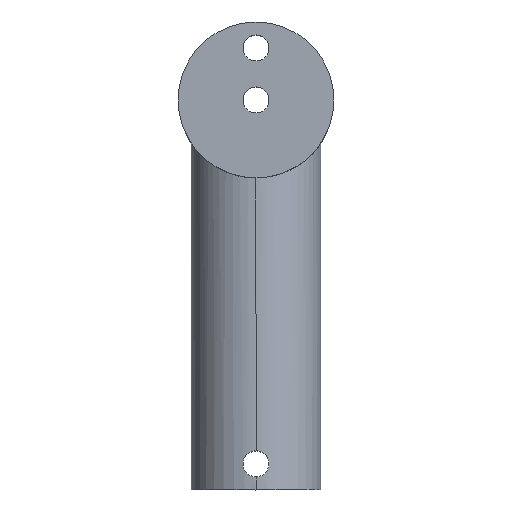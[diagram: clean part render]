
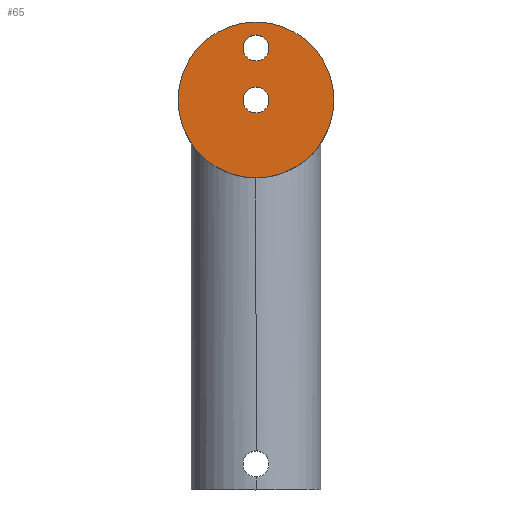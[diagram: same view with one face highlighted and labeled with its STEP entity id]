
A CAD part, top view. The second image highlights one B-rep face of the part: STEP entity #65.
In plain terms, the highlighted planar face has unit normal (0, 0, 1).
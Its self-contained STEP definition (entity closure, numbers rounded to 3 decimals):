
#8 = ORIENTED_EDGE ( 'NONE', *, *, #795, .F. ) ;
#15 = DIRECTION ( 'NONE',  ( 1., 0., 0. ) ) ;
#44 = ORIENTED_EDGE ( 'NONE', *, *, #193, .T. ) ;
#56 = FACE_BOUND ( 'NONE', #442, .T. ) ;
#59 = AXIS2_PLACEMENT_3D ( 'NONE', #305, #373, #117 ) ;
#64 = DIRECTION ( 'NONE',  ( 1., 0., 0. ) ) ;
#65 = ADVANCED_FACE ( 'NONE', ( #56, #395, #737 ), #1068, .T. ) ;
#73 = CARTESIAN_POINT ( 'NONE',  ( 2.5, 0., 27.5 ) ) ;
#113 = CIRCLE ( 'NONE', #59, 2.5 ) ;
#117 = DIRECTION ( 'NONE',  ( 1., 0., 0. ) ) ;
#130 = DIRECTION ( 'NONE',  ( 1., 0., 0. ) ) ;
#190 = VERTEX_POINT ( 'NONE', #372 ) ;
#193 = EDGE_CURVE ( 'NONE', #658, #491, #870, .T. ) ;
#216 = EDGE_CURVE ( 'NONE', #491, #658, #285, .T. ) ;
#224 = DIRECTION ( 'NONE',  ( 1., 0., 0. ) ) ;
#253 = CIRCLE ( 'NONE', #342, 2.5 ) ;
#263 = CARTESIAN_POINT ( 'NONE',  ( 0., 0., 27.5 ) ) ;
#280 = DIRECTION ( 'NONE',  ( 0., 0., 1. ) ) ;
#285 = CIRCLE ( 'NONE', #819, 15. ) ;
#300 = DIRECTION ( 'NONE',  ( 0., 0., 1. ) ) ;
#305 = CARTESIAN_POINT ( 'NONE',  ( 0., 0., 27.5 ) ) ;
#309 = CARTESIAN_POINT ( 'NONE',  ( 0., 0., 27.5 ) ) ;
#338 = CIRCLE ( 'NONE', #736, 2.5 ) ;
#339 = DIRECTION ( 'NONE',  ( 0., 0., 1. ) ) ;
#342 = AXIS2_PLACEMENT_3D ( 'NONE', #474, #300, #64 ) ;
#372 = CARTESIAN_POINT ( 'NONE',  ( 2.5, 10., 27.5 ) ) ;
#373 = DIRECTION ( 'NONE',  ( 0., 0., 1. ) ) ;
#392 = CARTESIAN_POINT ( 'NONE',  ( -2.5, 10., 27.5 ) ) ;
#393 = EDGE_CURVE ( 'NONE', #1036, #889, #338, .T. ) ;
#394 = ORIENTED_EDGE ( 'NONE', *, *, #216, .T. ) ;
#395 = FACE_OUTER_BOUND ( 'NONE', #991, .T. ) ;
#438 = AXIS2_PLACEMENT_3D ( 'NONE', #656, #980, #224 ) ;
#442 = EDGE_LOOP ( 'NONE', ( #8, #877 ) ) ;
#453 = EDGE_CURVE ( 'NONE', #889, #1036, #113, .T. ) ;
#474 = CARTESIAN_POINT ( 'NONE',  ( 0., 10., 27.5 ) ) ;
#491 = VERTEX_POINT ( 'NONE', #710 ) ;
#545 = DIRECTION ( 'NONE',  ( 0., 0., 1. ) ) ;
#566 = DIRECTION ( 'NONE',  ( 0., 0., 1. ) ) ;
#630 = EDGE_LOOP ( 'NONE', ( #902, #1066 ) ) ;
#632 = DIRECTION ( 'NONE',  ( 1., 0., 0. ) ) ;
#656 = CARTESIAN_POINT ( 'NONE',  ( 0., 10., 27.5 ) ) ;
#658 = VERTEX_POINT ( 'NONE', #1044 ) ;
#678 = DIRECTION ( 'NONE',  ( 1., 0., 0. ) ) ;
#710 = CARTESIAN_POINT ( 'NONE',  ( -15., 0., 27.5 ) ) ;
#736 = AXIS2_PLACEMENT_3D ( 'NONE', #968, #566, #130 ) ;
#737 = FACE_BOUND ( 'NONE', #630, .T. ) ;
#770 = EDGE_CURVE ( 'NONE', #190, #794, #253, .T. ) ;
#794 = VERTEX_POINT ( 'NONE', #392 ) ;
#795 = EDGE_CURVE ( 'NONE', #794, #190, #1069, .T. ) ;
#819 = AXIS2_PLACEMENT_3D ( 'NONE', #263, #280, #632 ) ;
#852 = CARTESIAN_POINT ( 'NONE',  ( -2.5, 0., 27.5 ) ) ;
#870 = CIRCLE ( 'NONE', #917, 15. ) ;
#877 = ORIENTED_EDGE ( 'NONE', *, *, #770, .F. ) ;
#889 = VERTEX_POINT ( 'NONE', #73 ) ;
#902 = ORIENTED_EDGE ( 'NONE', *, *, #393, .F. ) ;
#917 = AXIS2_PLACEMENT_3D ( 'NONE', #1041, #545, #15 ) ;
#938 = AXIS2_PLACEMENT_3D ( 'NONE', #309, #339, #678 ) ;
#968 = CARTESIAN_POINT ( 'NONE',  ( 0., 0., 27.5 ) ) ;
#980 = DIRECTION ( 'NONE',  ( 0., 0., 1. ) ) ;
#991 = EDGE_LOOP ( 'NONE', ( #394, #44 ) ) ;
#1036 = VERTEX_POINT ( 'NONE', #852 ) ;
#1041 = CARTESIAN_POINT ( 'NONE',  ( 0., 0., 27.5 ) ) ;
#1044 = CARTESIAN_POINT ( 'NONE',  ( 15., 0., 27.5 ) ) ;
#1066 = ORIENTED_EDGE ( 'NONE', *, *, #453, .F. ) ;
#1068 = PLANE ( 'NONE',  #938 ) ;
#1069 = CIRCLE ( 'NONE', #438, 2.5 ) ;
